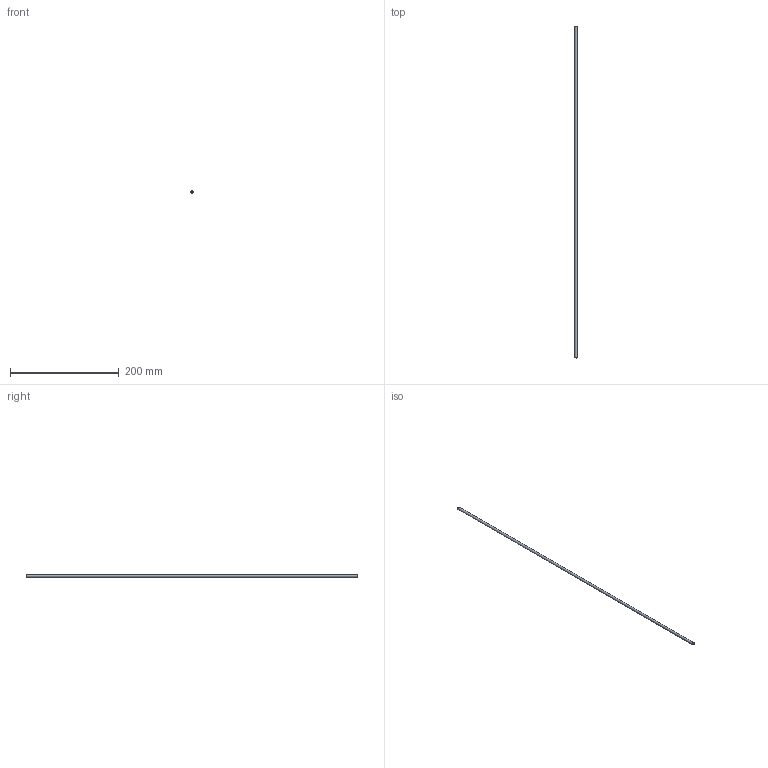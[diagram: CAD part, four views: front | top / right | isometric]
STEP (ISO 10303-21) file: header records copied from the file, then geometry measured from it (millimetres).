
FILE_DESCRIPTION(/* description */ (''),/* implementation_level */ '2;1');
FILE_NAME(/* name */ 'C:/Users/drich/Desktop/187T-24 v1.step',/* time_stamp */ '2019-12-27T17:26:38-06:00',/* author */ (''),/* organization */ (''),/* preprocessor_version */ 'ST-DEVELOPER v18',/* originating_system */ 'Autodesk Translation Framework v8.12.0.6',/* authorisation */ '');
FILE_SCHEMA (('AUTOMOTIVE_DESIGN { 1 0 10303 214 3 1 1 }'));
Length unit declared in the file: inch
Products named in the file (1): 187T-24
Bounding box: 4.73 x 609.6 x 4.73 mm (x, y, z)
Volume: 6023.7 mm3; surface area: 15051 mm2
Topology: 1 solids, 1 shells, 6 faces, 14 edges, 10 vertices
Faces by surface type: cone 2, cylinder 2, plane 2
Full cylindrical faces by diameter (mm): 3.124 x1, 4.727 x1
Entity records: 230 total; most frequent: DIRECTION 38, CARTESIAN_POINT 31, ORIENTED_EDGE 28, AXIS2_PLACEMENT_3D 17, EDGE_CURVE 14, CIRCLE 10, VERTEX_POINT 10, EDGE_LOOP 8
